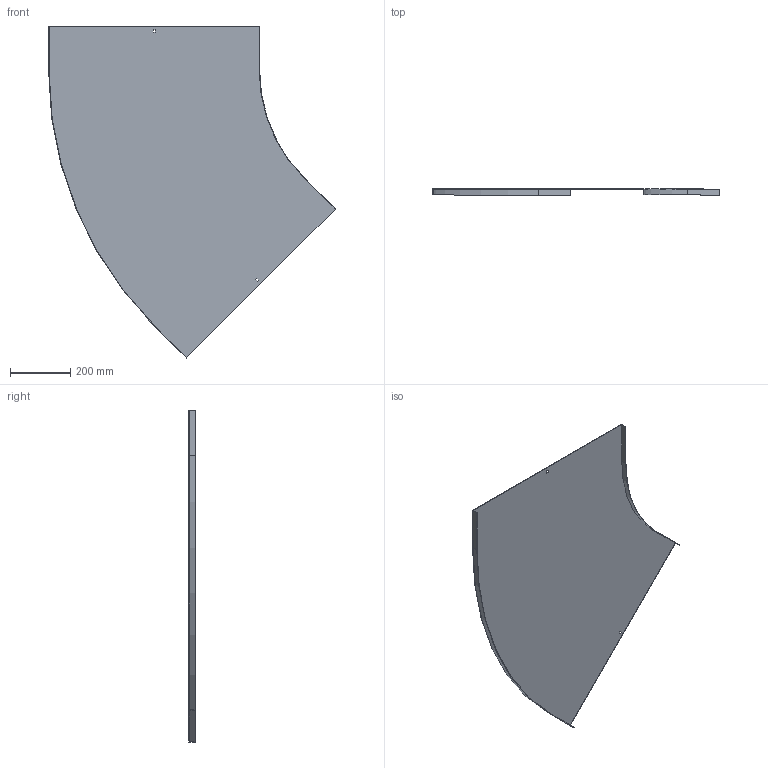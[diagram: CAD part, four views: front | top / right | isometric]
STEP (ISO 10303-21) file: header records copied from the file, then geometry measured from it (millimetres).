
FILE_DESCRIPTION (( 'STEP AP214' ), '1' );
FILE_NAME ('11N5R700.step', '2025-02-21T10:50:12', ( '' ), ( '' ), 'SwSTEP 2.0', 'SolidWorks 2023', '' );
FILE_SCHEMA (( 'AUTOMOTIVE_DESIGN' ));
Length unit declared in the file: millimetre
Products named in the file (1): 11N5R700
Bounding box: 955.07 x 20 x 1105.65 mm (x, y, z)
Volume: 1073847.7 mm3; surface area: 1437012.7 mm2
Topology: 1 solids, 1 shells, 26 faces, 72 edges, 48 vertices
Faces by surface type: plane 22, cylinder 4
Entity records: 855 total; most frequent: CARTESIAN_POINT 147, ORIENTED_EDGE 144, DIRECTION 134, EDGE_CURVE 72, LINE 64, VECTOR 64, VERTEX_POINT 48, AXIS2_PLACEMENT_3D 35
